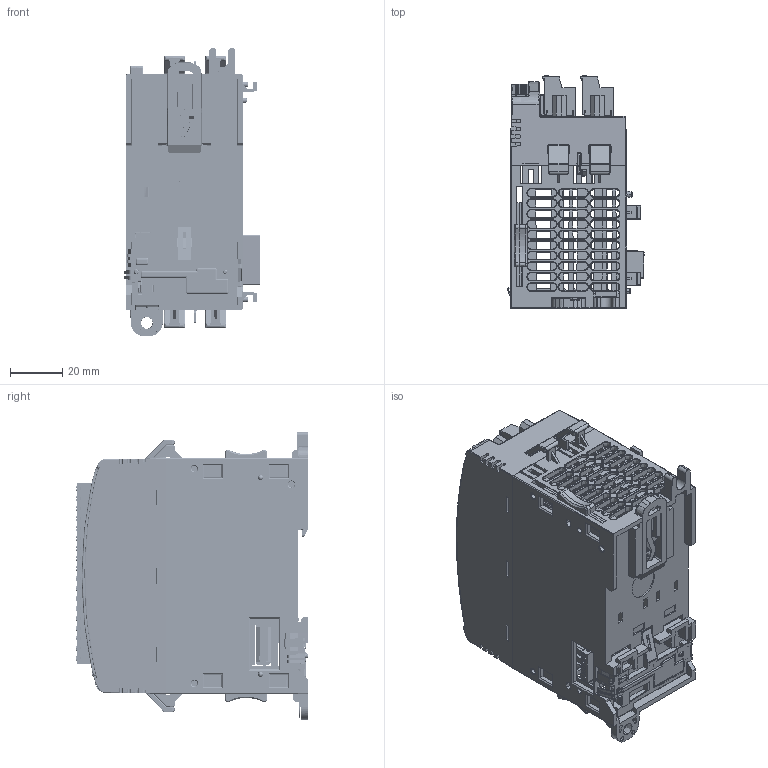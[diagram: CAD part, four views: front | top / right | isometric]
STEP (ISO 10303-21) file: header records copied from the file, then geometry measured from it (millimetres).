
FILE_DESCRIPTION (( 'STEP AP203' ), '1' );
FILE_NAME ('2085-IT8.16.STEP', '2021-12-30T01:16:25', ( '' ), ( '' ), 'SwSTEP 2.0', 'SolidWorks 2021', '' );
FILE_SCHEMA (( 'CONFIG_CONTROL_DESIGN' ));
Length unit declared in the file: millimetre
Products named in the file (13): TFM_110_11_H_D_5; 2-EB1388-18-500.stp; EB1388-18-500.stp; 1400236-01.stp; SFM_110_01_L_D_5; TFM_110_11_H_D_3; 2085_TERMINAL_PLUGS; 2085-IT8.16; SFM_110_01_L_D; 2085-BASE.stp; TFM_110_11_H_D; SFM_110_01_L_D_3; 2085_LED
Assembly tree (12 placements, depth 3):
  2085-IT8.16
    2085-BASE.stp
    1400236-01.stp
    TFM_110_11_H_D
      TFM_110_11_H_D_3
      TFM_110_11_H_D_5
    SFM_110_01_L_D
      SFM_110_01_L_D_3
      SFM_110_01_L_D_5
    2085_TERMINAL_PLUGS
      EB1388-18-500.stp
      2-EB1388-18-500.stp
    2085_LED
Bounding box: 52.2 x 88.8 x 110 mm (x, y, z)
Volume: 43593.4 mm3; surface area: 87954.3 mm2
Topology: 10 solids, 85 shells, 8007 faces, 22369 edges, 14612 vertices
Faces by surface type: plane 6006, bspline 1082, cylinder 824, cone 72, sphere 18, torus 5
Entity records: 320043 total; most frequent: CARTESIAN_POINT 131421, ORIENTED_EDGE 44668, DIRECTION 29146, EDGE_CURVE 22340, VERTEX_POINT 14612, LINE 13082, VECTOR 13082, EDGE_LOOP 8677
